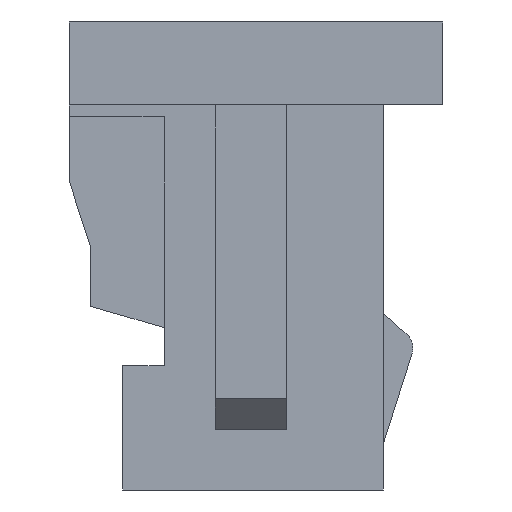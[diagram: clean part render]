
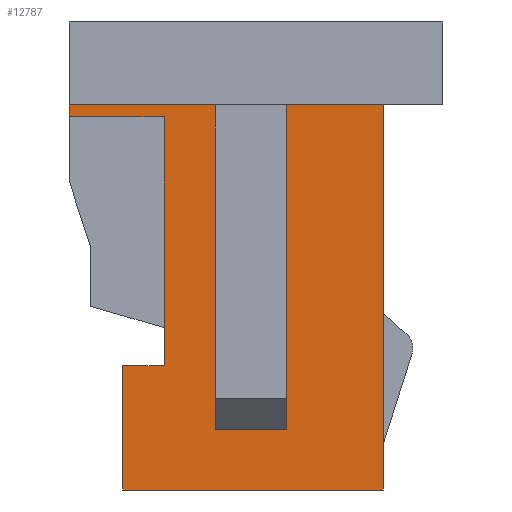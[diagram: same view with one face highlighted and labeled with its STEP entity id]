
A CAD part, front view. The second image highlights one B-rep face of the part: STEP entity #12787.
In plain terms, the highlighted planar face has unit normal (0, -1, 0).
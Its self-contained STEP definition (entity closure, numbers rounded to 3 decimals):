
#15 = EDGE_CURVE ( 'NONE', #11914, #2380, #2302, .T. ) ;
#141 = LINE ( 'NONE', #9640, #11211 ) ;
#158 = ORIENTED_EDGE ( 'NONE', *, *, #918, .T. ) ;
#340 = VECTOR ( 'NONE', #4576, 1000. ) ;
#367 = ORIENTED_EDGE ( 'NONE', *, *, #4816, .F. ) ;
#578 = VECTOR ( 'NONE', #5029, 1000. ) ;
#627 = LINE ( 'NONE', #10060, #8246 ) ;
#737 = VERTEX_POINT ( 'NONE', #4715 ) ;
#754 = VECTOR ( 'NONE', #11573, 1000. ) ;
#769 = VECTOR ( 'NONE', #7011, 1000. ) ;
#829 = EDGE_CURVE ( 'NONE', #737, #3987, #10544, .T. ) ;
#918 = EDGE_CURVE ( 'NONE', #4840, #10002, #9859, .T. ) ;
#941 = LINE ( 'NONE', #4327, #12029 ) ;
#1024 = CARTESIAN_POINT ( 'NONE',  ( 0., -13.6, -0.8 ) ) ;
#1087 = VECTOR ( 'NONE', #5235, 1000. ) ;
#1354 = CARTESIAN_POINT ( 'NONE',  ( 0.8, -13.6, -0.8 ) ) ;
#1624 = EDGE_CURVE ( 'NONE', #11917, #2380, #3265, .T. ) ;
#1725 = ORIENTED_EDGE ( 'NONE', *, *, #10860, .F. ) ;
#1816 = EDGE_CURVE ( 'NONE', #5141, #11917, #2895, .T. ) ;
#2031 = VECTOR ( 'NONE', #3038, 1000. ) ;
#2302 = LINE ( 'NONE', #12417, #4289 ) ;
#2380 = VERTEX_POINT ( 'NONE', #1024 ) ;
#2413 = EDGE_CURVE ( 'NONE', #5141, #8673, #9856, .T. ) ;
#2442 = ORIENTED_EDGE ( 'NONE', *, *, #2413, .F. ) ;
#2733 = DIRECTION ( 'NONE',  ( 1., 0., 0. ) ) ;
#2895 = LINE ( 'NONE', #7163, #578 ) ;
#3038 = DIRECTION ( 'NONE',  ( -1., 0., 0. ) ) ;
#3166 = CARTESIAN_POINT ( 'NONE',  ( 1.23, -13.6, 0. ) ) ;
#3175 = LINE ( 'NONE', #11974, #340 ) ;
#3265 = LINE ( 'NONE', #13628, #1087 ) ;
#3337 = DIRECTION ( 'NONE',  ( 1., 0., 0. ) ) ;
#3496 = CARTESIAN_POINT ( 'NONE',  ( 2.65, -13.6, -0.7 ) ) ;
#3525 = ORIENTED_EDGE ( 'NONE', *, *, #1624, .T. ) ;
#3961 = ORIENTED_EDGE ( 'NONE', *, *, #4470, .F. ) ;
#3987 = VERTEX_POINT ( 'NONE', #3496 ) ;
#3999 = LINE ( 'NONE', #8304, #2031 ) ;
#4289 = VECTOR ( 'NONE', #5076, 1000. ) ;
#4327 = CARTESIAN_POINT ( 'NONE',  ( 2.65, -13.6, -0.7 ) ) ;
#4470 = EDGE_CURVE ( 'NONE', #12415, #7942, #12130, .T. ) ;
#4501 = CARTESIAN_POINT ( 'NONE',  ( 0., -13.6, -0.7 ) ) ;
#4576 = DIRECTION ( 'NONE',  ( 0., 0., 1. ) ) ;
#4612 = ORIENTED_EDGE ( 'NONE', *, *, #829, .T. ) ;
#4715 = CARTESIAN_POINT ( 'NONE',  ( 2.65, -13.6, -3.95 ) ) ;
#4816 = EDGE_CURVE ( 'NONE', #737, #10002, #3999, .T. ) ;
#4840 = VERTEX_POINT ( 'NONE', #9508 ) ;
#5029 = DIRECTION ( 'NONE',  ( -1., 0., 0. ) ) ;
#5076 = DIRECTION ( 'NONE',  ( -1., 0., 0. ) ) ;
#5141 = VERTEX_POINT ( 'NONE', #12408 ) ;
#5235 = DIRECTION ( 'NONE',  ( 0., 0., -1. ) ) ;
#5254 = DIRECTION ( 'NONE',  ( 0., 0., -1. ) ) ;
#6238 = EDGE_LOOP ( 'NONE', ( #6296, #3525, #7527, #11709, #12592, #158, #367, #4612, #12854, #3961, #1725, #2442 ) ) ;
#6296 = ORIENTED_EDGE ( 'NONE', *, *, #1816, .T. ) ;
#6417 = CARTESIAN_POINT ( 'NONE',  ( 0.45, -13.6, -2.9 ) ) ;
#6426 = DIRECTION ( 'NONE',  ( -1., 0., 0. ) ) ;
#6813 = DIRECTION ( 'NONE',  ( 0., 0., 1. ) ) ;
#7011 = DIRECTION ( 'NONE',  ( 0., 0., 1. ) ) ;
#7058 = CARTESIAN_POINT ( 'NONE',  ( 2.65, -13.6, -0.7 ) ) ;
#7063 = VERTEX_POINT ( 'NONE', #12275 ) ;
#7163 = CARTESIAN_POINT ( 'NONE',  ( 2.65, -13.6, -0.7 ) ) ;
#7210 = FACE_OUTER_BOUND ( 'NONE', #6238, .T. ) ;
#7364 = DIRECTION ( 'NONE',  ( -1., 0., 0. ) ) ;
#7527 = ORIENTED_EDGE ( 'NONE', *, *, #15, .F. ) ;
#7639 = CARTESIAN_POINT ( 'NONE',  ( 1.83, -13.6, -3.44 ) ) ;
#7942 = VERTEX_POINT ( 'NONE', #13183 ) ;
#8246 = VECTOR ( 'NONE', #2733, 1000. ) ;
#8261 = PLANE ( 'NONE',  #10152 ) ;
#8304 = CARTESIAN_POINT ( 'NONE',  ( 0., -13.6, -3.95 ) ) ;
#8673 = VERTEX_POINT ( 'NONE', #11429 ) ;
#8689 = CARTESIAN_POINT ( 'NONE',  ( 1.83, -13.6, 0. ) ) ;
#8712 = VECTOR ( 'NONE', #5254, 1000. ) ;
#8792 = CARTESIAN_POINT ( 'NONE',  ( 0.45, -13.6, -3.95 ) ) ;
#9020 = EDGE_CURVE ( 'NONE', #7063, #11914, #3175, .T. ) ;
#9411 = DIRECTION ( 'NONE',  ( 0., 1., 0. ) ) ;
#9508 = CARTESIAN_POINT ( 'NONE',  ( 0.45, -13.6, -2.9 ) ) ;
#9640 = CARTESIAN_POINT ( 'NONE',  ( 0., -13.6, -2.9 ) ) ;
#9856 = LINE ( 'NONE', #3166, #754 ) ;
#9859 = LINE ( 'NONE', #6417, #8712 ) ;
#10002 = VERTEX_POINT ( 'NONE', #8792 ) ;
#10060 = CARTESIAN_POINT ( 'NONE',  ( 0., -13.6, -3.44 ) ) ;
#10152 = AXIS2_PLACEMENT_3D ( 'NONE', #10383, #9411, #7364 ) ;
#10383 = CARTESIAN_POINT ( 'NONE',  ( 0., -13.6, 0. ) ) ;
#10544 = LINE ( 'NONE', #7058, #769 ) ;
#10639 = VECTOR ( 'NONE', #6813, 1000. ) ;
#10860 = EDGE_CURVE ( 'NONE', #8673, #12415, #627, .T. ) ;
#11211 = VECTOR ( 'NONE', #3337, 1000. ) ;
#11276 = EDGE_CURVE ( 'NONE', #4840, #7063, #141, .T. ) ;
#11429 = CARTESIAN_POINT ( 'NONE',  ( 1.23, -13.6, -3.44 ) ) ;
#11573 = DIRECTION ( 'NONE',  ( 0., 0., -1. ) ) ;
#11709 = ORIENTED_EDGE ( 'NONE', *, *, #9020, .F. ) ;
#11718 = EDGE_CURVE ( 'NONE', #3987, #7942, #941, .T. ) ;
#11914 = VERTEX_POINT ( 'NONE', #1354 ) ;
#11917 = VERTEX_POINT ( 'NONE', #4501 ) ;
#11974 = CARTESIAN_POINT ( 'NONE',  ( 0.8, -13.6, 0. ) ) ;
#12029 = VECTOR ( 'NONE', #6426, 1000. ) ;
#12130 = LINE ( 'NONE', #8689, #10639 ) ;
#12275 = CARTESIAN_POINT ( 'NONE',  ( 0.8, -13.6, -2.9 ) ) ;
#12408 = CARTESIAN_POINT ( 'NONE',  ( 1.23, -13.6, -0.7 ) ) ;
#12415 = VERTEX_POINT ( 'NONE', #7639 ) ;
#12417 = CARTESIAN_POINT ( 'NONE',  ( 0., -13.6, -0.8 ) ) ;
#12592 = ORIENTED_EDGE ( 'NONE', *, *, #11276, .F. ) ;
#12787 = ADVANCED_FACE ( 'NONE', ( #7210 ), #8261, .F. ) ;
#12854 = ORIENTED_EDGE ( 'NONE', *, *, #11718, .T. ) ;
#13183 = CARTESIAN_POINT ( 'NONE',  ( 1.83, -13.6, -0.7 ) ) ;
#13628 = CARTESIAN_POINT ( 'NONE',  ( 0., -13.6, -0.7 ) ) ;
